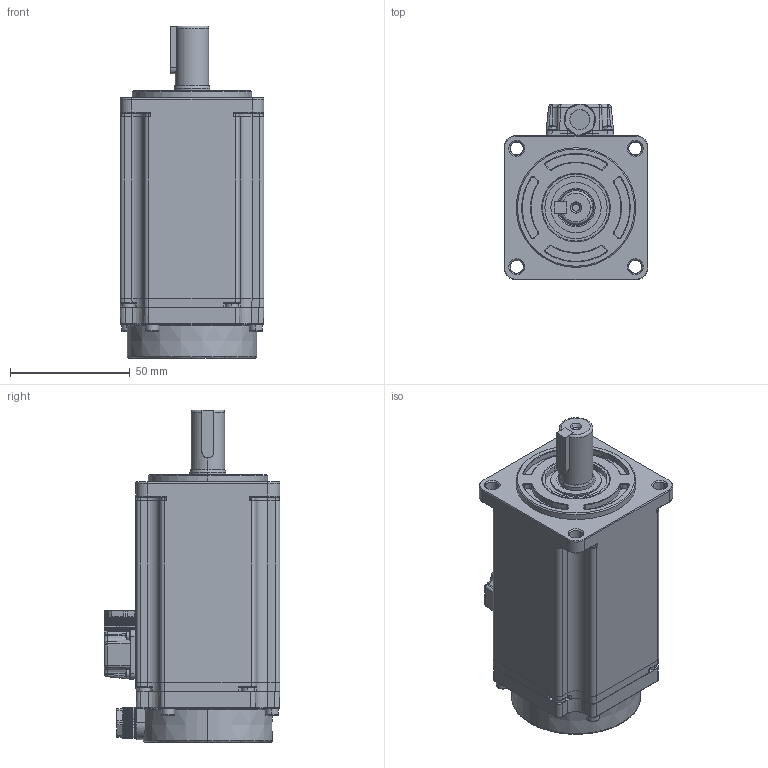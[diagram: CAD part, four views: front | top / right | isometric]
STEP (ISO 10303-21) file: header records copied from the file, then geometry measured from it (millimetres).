
FILE_DESCRIPTION (( 'STEP AP203' ), '1' );
FILE_NAME ('G3系列60ST-600W标准电机三维图.STEP', '2022-04-14T04:41:54', ( '微软用户' ), ( '微软中国' ), 'SwSTEP 2.0', 'SolidWorks 2016', '' );
FILE_SCHEMA (( 'CONFIG_CONTROL_DESIGN' ));
Length unit declared in the file: millimetre
Products named in the file (12): G3系列60ST-600W标准电机三维图; G3炵蹈60侜督蚐猾; 5x20す瑩; 囀鞠褒埴芛蹟佪M3x16; 囀鞠褒埴芛蹟佪M3x12; G3系列60伺服动力线出线座; 60伺服编码器短盖直接出线; G3炵蹈60侜督綴裔; G3炵蹈60侜督600W儂褲; 十字圆头带垫片M2x5发黑; G3系列60ST5P-1.91NM轴-配锐鹰中航分体式磁编; 60伺服编码器出线锁紧螺母
Assembly tree (21 placements, depth 2):
  G3系列60ST-600W标准电机三维图
    G3炵蹈60侜督綴裔
    十字圆头带垫片M2x5发黑  x4
    60伺服编码器出线锁紧螺母  x2
    G3炵蹈60侜督蚐猾
    5x20す瑩
    囀鞠褒埴芛蹟佪M3x16  x4
    囀鞠褒埴芛蹟佪M3x12  x4
    G3系列60伺服动力线出线座
    60伺服编码器短盖直接出线
    G3炵蹈60侜督600W儂褲
    G3系列60ST5P-1.91NM轴-配锐鹰中航分体式磁编
Bounding box: 60.2 x 73.5 x 138.8 mm (x, y, z)
Volume: 129342.5 mm3; surface area: 85914.4 mm2
Topology: 21 solids, 21 shells, 2898 faces, 7065 edges, 4303 vertices
Faces by surface type: plane 1609, cylinder 533, cone 469, bspline 171, torus 100, sphere 16
Entity records: 72336 total; most frequent: CARTESIAN_POINT 17641, DIRECTION 11244, ORIENTED_EDGE 11150, EDGE_CURVE 5575, AXIS2_PLACEMENT_3D 4103, VERTEX_POINT 3425, LINE 3038, VECTOR 3038
